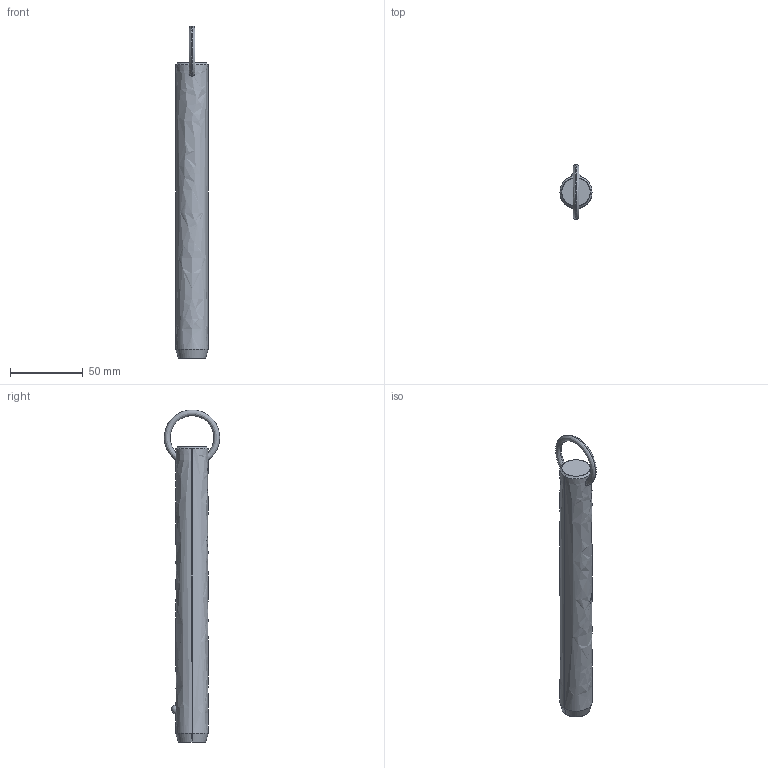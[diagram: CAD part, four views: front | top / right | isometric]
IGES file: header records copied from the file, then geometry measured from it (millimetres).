
Start section: SolidWorks IGES file using analytic representation for surfaces
Global section: file name: C:\Users\liam_\OneDrive\Documents\WORK\Work for WixRoyd\Job Files\J-00019 - Matt Davis CAD Checking\04. CAD Drawings\automotion20190605\P1250.2_v2\P1250.2_v2_20190729_IGES\P1250.087-650.igs; native system: SolidWorks 2017; preprocessor: SolidWorks 2017; author: liam_; date: 190730.170640; units: millimetre
Bounding box: 22.2 x 38.08 x 228.6 mm (x, y, z)
Surface area: 15815.6 mm2 (no closed solid volume)
Topology: 0 solids, 0 shells, 12 faces, 302 edges, 300 vertices
Faces by surface type: revolution 8, bspline 4
